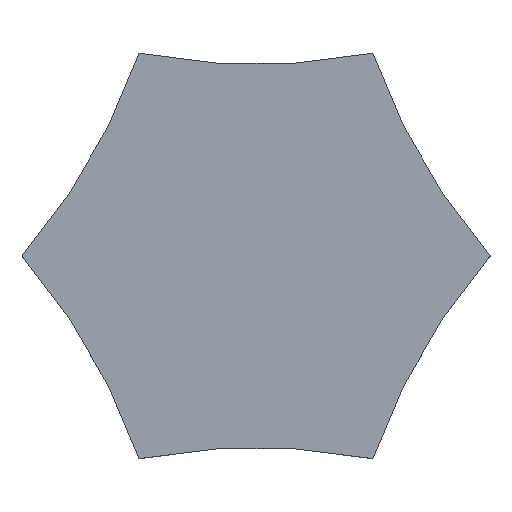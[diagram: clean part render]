
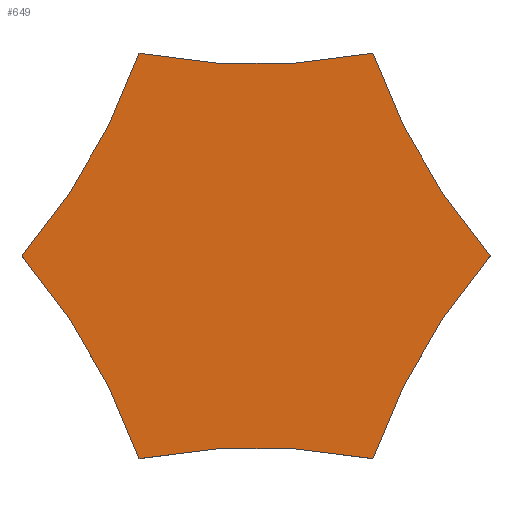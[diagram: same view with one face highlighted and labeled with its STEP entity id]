
A CAD part, top view. The second image highlights one B-rep face of the part: STEP entity #649.
In plain terms, the highlighted planar face has unit normal (0, 0, 1).
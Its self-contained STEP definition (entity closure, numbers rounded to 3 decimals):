
#495 = VERTEX_POINT('',#496);
#496 = CARTESIAN_POINT('',(8.386,43.97,6.));
#502 = EDGE_CURVE('',#495,#503,#505,.T.);
#503 = VERTEX_POINT('',#504);
#504 = CARTESIAN_POINT('',(16.772,29.445,6.));
#505 = CIRCLE('',#506,45.15);
#506 = AXIS2_PLACEMENT_3D('',#507,#508,#509);
#507 = CARTESIAN_POINT('',(51.,58.89,6.));
#508 = DIRECTION('',(0.,0.,1.));
#509 = DIRECTION('',(1.,0.,0.));
#527 = VERTEX_POINT('',#528);
#528 = CARTESIAN_POINT('',(-8.386,43.97,6.));
#534 = EDGE_CURVE('',#527,#495,#535,.T.);
#535 = CIRCLE('',#536,45.15);
#536 = AXIS2_PLACEMENT_3D('',#537,#538,#539);
#537 = CARTESIAN_POINT('',(0.,88.335,6.));
#538 = DIRECTION('',(0.,0.,1.));
#539 = DIRECTION('',(1.,0.,0.));
#552 = EDGE_CURVE('',#503,#553,#555,.T.);
#553 = VERTEX_POINT('',#554);
#554 = CARTESIAN_POINT('',(8.386,14.919,6.));
#555 = CIRCLE('',#556,45.15);
#556 = AXIS2_PLACEMENT_3D('',#557,#558,#559);
#557 = CARTESIAN_POINT('',(51.,0.,6.));
#558 = DIRECTION('',(0.,0.,1.));
#559 = DIRECTION('',(1.,0.,0.));
#577 = VERTEX_POINT('',#578);
#578 = CARTESIAN_POINT('',(-16.772,29.445,6.));
#584 = EDGE_CURVE('',#577,#527,#585,.T.);
#585 = CIRCLE('',#586,45.15);
#586 = AXIS2_PLACEMENT_3D('',#587,#588,#589);
#587 = CARTESIAN_POINT('',(-51.,58.89,6.));
#588 = DIRECTION('',(0.,0.,1.));
#589 = DIRECTION('',(1.,0.,0.));
#602 = EDGE_CURVE('',#553,#603,#605,.T.);
#603 = VERTEX_POINT('',#604);
#604 = CARTESIAN_POINT('',(-8.386,14.919,6.));
#605 = CIRCLE('',#606,45.15);
#606 = AXIS2_PLACEMENT_3D('',#607,#608,#609);
#607 = CARTESIAN_POINT('',(0.,-29.445,6.));
#608 = DIRECTION('',(0.,0.,1.));
#609 = DIRECTION('',(1.,0.,0.));
#627 = EDGE_CURVE('',#603,#577,#628,.T.);
#628 = CIRCLE('',#629,45.15);
#629 = AXIS2_PLACEMENT_3D('',#630,#631,#632);
#630 = CARTESIAN_POINT('',(-51.,0.,6.));
#631 = DIRECTION('',(0.,0.,1.));
#632 = DIRECTION('',(1.,0.,0.));
#649 = ADVANCED_FACE('',(#650),#658,.T.);
#650 = FACE_BOUND('',#651,.F.);
#651 = EDGE_LOOP('',(#652,#653,#654,#655,#656,#657));
#652 = ORIENTED_EDGE('',*,*,#502,.T.);
#653 = ORIENTED_EDGE('',*,*,#552,.T.);
#654 = ORIENTED_EDGE('',*,*,#602,.T.);
#655 = ORIENTED_EDGE('',*,*,#627,.T.);
#656 = ORIENTED_EDGE('',*,*,#584,.T.);
#657 = ORIENTED_EDGE('',*,*,#534,.T.);
#658 = PLANE('',#659);
#659 = AXIS2_PLACEMENT_3D('',#660,#661,#662);
#660 = CARTESIAN_POINT('',(0.,29.445,6.));
#661 = DIRECTION('',(0.,0.,1.));
#662 = DIRECTION('',(1.,0.,0.));
